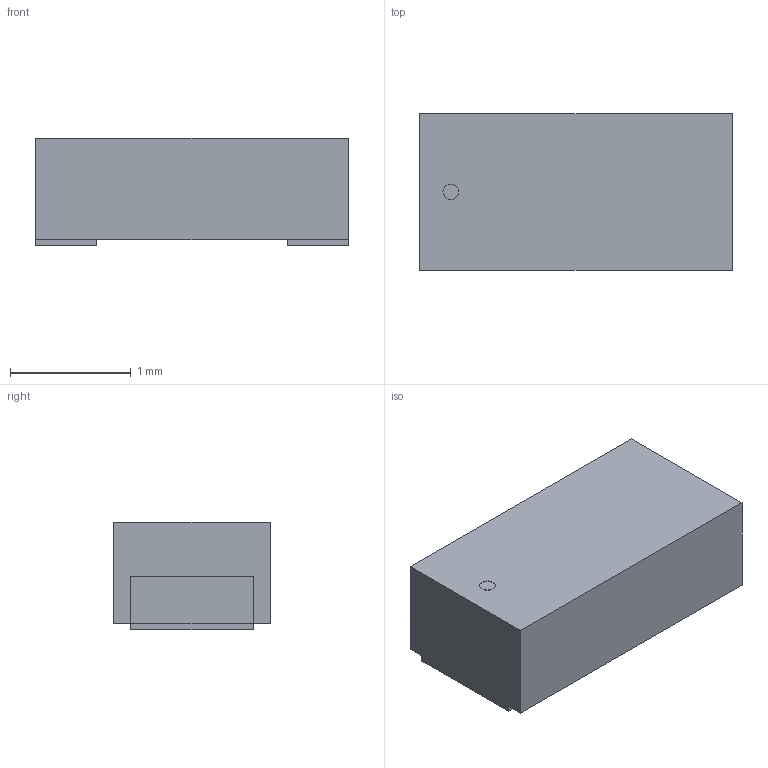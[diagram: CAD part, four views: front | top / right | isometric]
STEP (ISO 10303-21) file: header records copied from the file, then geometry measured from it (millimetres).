
FILE_DESCRIPTION(('STEP AP214'),'1');
FILE_NAME('CDBFR','2021-09-22T01:06:35',(''),(''),'','','');
FILE_SCHEMA(('AUTOMOTIVE_DESIGN'));
Length unit declared in the file: millimetre
Products named in the file (1): product
Bounding box: 2.59 x 1.3 x 0.89 mm (x, y, z)
Volume: 2.9 mm3; surface area: 17.2 mm2
Topology: 4 solids, 4 shells, 25 faces, 47 edges, 30 vertices
Faces by surface type: plane 24, cylinder 1
Full cylindrical faces by diameter (mm): 0.13 x1
Entity records: 668 total; most frequent: DIRECTION 106, ORIENTED_EDGE 100, CARTESIAN_POINT 63, EDGE_CURVE 50, LINE 48, VECTOR 48, VERTEX_POINT 34, AXIS2_PLACEMENT_3D 29
